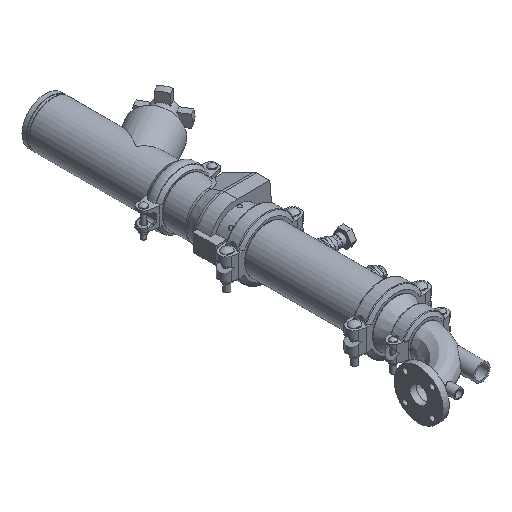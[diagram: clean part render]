
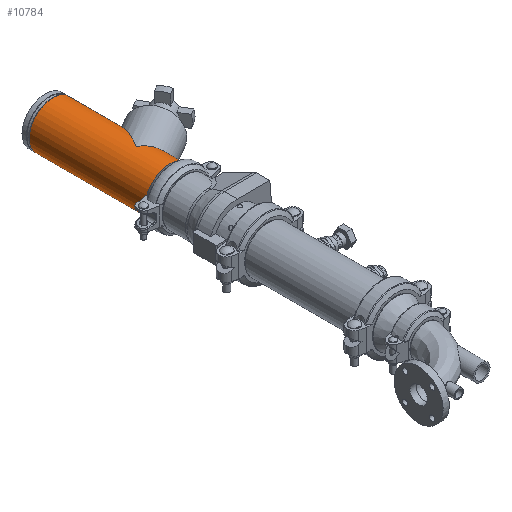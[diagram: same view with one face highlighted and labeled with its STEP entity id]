
A CAD part, isometric view. The second image highlights one B-rep face of the part: STEP entity #10784.
In plain terms, the highlighted cylindrical face has radius 84.138 mm (diameter 168.275 mm), a full revolution.
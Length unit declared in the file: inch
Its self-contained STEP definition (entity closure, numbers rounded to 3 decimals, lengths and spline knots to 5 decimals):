
#273=ELLIPSE('',#11860,6.625,3.3125);
#274=ELLIPSE('',#11861,3.82495,3.3125);
#275=ELLIPSE('',#11864,3.82495,3.3125);
#276=ELLIPSE('',#11865,6.625,3.3125);
#686=LINE('',#17877,#1479);
#687=LINE('',#17883,#1480);
#1479=VECTOR('',#13944,3.3125);
#1480=VECTOR('',#13949,3.3125);
#2003=CYLINDRICAL_SURFACE('',#11857,3.3125);
#2469=FACE_OUTER_BOUND('',#3087,.T.);
#3087=EDGE_LOOP('',(#7877,#7878,#7879,#7880,#7881,#7882,#7883,#7884,#7885,
#7886,#7887,#7888));
#3699=CIRCLE('',#11858,3.3125);
#3700=CIRCLE('',#11859,3.3125);
#3701=CIRCLE('',#11862,3.3125);
#3702=CIRCLE('',#11863,3.3125);
#4477=VERTEX_POINT('',#17872);
#4478=VERTEX_POINT('',#17873);
#4479=VERTEX_POINT('',#17876);
#4480=VERTEX_POINT('',#17878);
#4481=VERTEX_POINT('',#17880);
#4482=VERTEX_POINT('',#17882);
#4483=VERTEX_POINT('',#17884);
#4484=VERTEX_POINT('',#17887);
#5719=EDGE_CURVE('',#4477,#4478,#3699,.T.);
#5720=EDGE_CURVE('',#4478,#4477,#3700,.T.);
#5721=EDGE_CURVE('',#4478,#4479,#686,.T.);
#5722=EDGE_CURVE('',#4479,#4480,#273,.T.);
#5723=EDGE_CURVE('',#4480,#4481,#274,.T.);
#5724=EDGE_CURVE('',#4481,#4482,#687,.T.);
#5725=EDGE_CURVE('',#4482,#4483,#3701,.T.);
#5726=EDGE_CURVE('',#4483,#4482,#3702,.T.);
#5727=EDGE_CURVE('',#4481,#4484,#275,.T.);
#5728=EDGE_CURVE('',#4484,#4479,#276,.T.);
#7877=ORIENTED_EDGE('',*,*,#5719,.F.);
#7878=ORIENTED_EDGE('',*,*,#5720,.F.);
#7879=ORIENTED_EDGE('',*,*,#5721,.T.);
#7880=ORIENTED_EDGE('',*,*,#5722,.T.);
#7881=ORIENTED_EDGE('',*,*,#5723,.T.);
#7882=ORIENTED_EDGE('',*,*,#5724,.T.);
#7883=ORIENTED_EDGE('',*,*,#5725,.T.);
#7884=ORIENTED_EDGE('',*,*,#5726,.T.);
#7885=ORIENTED_EDGE('',*,*,#5724,.F.);
#7886=ORIENTED_EDGE('',*,*,#5727,.T.);
#7887=ORIENTED_EDGE('',*,*,#5728,.T.);
#7888=ORIENTED_EDGE('',*,*,#5721,.F.);
#10784=ADVANCED_FACE('',(#2469),#2003,.T.);
#11857=AXIS2_PLACEMENT_3D('',#17871,#13938,#13939);
#11858=AXIS2_PLACEMENT_3D('',#17874,#13940,#13941);
#11859=AXIS2_PLACEMENT_3D('',#17875,#13942,#13943);
#11860=AXIS2_PLACEMENT_3D('',#17879,#13945,#13946);
#11861=AXIS2_PLACEMENT_3D('',#17881,#13947,#13948);
#11862=AXIS2_PLACEMENT_3D('',#17885,#13950,#13951);
#11863=AXIS2_PLACEMENT_3D('',#17886,#13952,#13953);
#11864=AXIS2_PLACEMENT_3D('',#17888,#13954,#13955);
#11865=AXIS2_PLACEMENT_3D('',#17889,#13956,#13957);
#13938=DIRECTION('center_axis',(1.,0.,0.));
#13939=DIRECTION('ref_axis',(0.,1.,0.));
#13940=DIRECTION('center_axis',(1.,0.,0.));
#13941=DIRECTION('ref_axis',(0.,0.,-1.));
#13942=DIRECTION('center_axis',(1.,0.,0.));
#13943=DIRECTION('ref_axis',(0.,0.,-1.));
#13944=DIRECTION('',(-1.,0.,0.));
#13945=DIRECTION('center_axis',(0.5,0.866,0.));
#13946=DIRECTION('ref_axis',(-0.866,0.5,0.));
#13947=DIRECTION('center_axis',(-0.866,0.5,0.));
#13948=DIRECTION('ref_axis',(-0.5,-0.866,0.));
#13949=DIRECTION('',(-1.,0.,0.));
#13950=DIRECTION('center_axis',(1.,0.,0.));
#13951=DIRECTION('ref_axis',(0.,0.,-1.));
#13952=DIRECTION('center_axis',(1.,0.,0.));
#13953=DIRECTION('ref_axis',(0.,0.,-1.));
#13954=DIRECTION('center_axis',(-0.866,0.5,0.));
#13955=DIRECTION('ref_axis',(-0.5,-0.866,0.));
#13956=DIRECTION('center_axis',(0.5,0.866,0.));
#13957=DIRECTION('ref_axis',(-0.866,0.5,0.));
#17871=CARTESIAN_POINT('Origin',(0.,0.,
0.));
#17872=CARTESIAN_POINT('',(8.44,3.3125,0.));
#17873=CARTESIAN_POINT('',(8.44,-3.3125,0.));
#17874=CARTESIAN_POINT('Origin',(8.44,0.,0.));
#17875=CARTESIAN_POINT('Origin',(8.44,0.,0.));
#17876=CARTESIAN_POINT('',(2.15155,-3.3125,0.));
#17877=CARTESIAN_POINT('',(0.,-3.3125,0.));
#17878=CARTESIAN_POINT('',(-3.58586,0.,-3.3125));
#17879=CARTESIAN_POINT('Origin',(-3.58586,0.,
0.));
#17880=CARTESIAN_POINT('',(-5.49834,-3.3125,0.));
#17881=CARTESIAN_POINT('Origin',(-3.58586,0.,
0.));
#17882=CARTESIAN_POINT('',(-8.44,-3.3125,0.));
#17883=CARTESIAN_POINT('',(0.,-3.3125,0.));
#17884=CARTESIAN_POINT('',(-8.44,3.3125,0.));
#17885=CARTESIAN_POINT('Origin',(-8.44,0.,0.));
#17886=CARTESIAN_POINT('Origin',(-8.44,0.,0.));
#17887=CARTESIAN_POINT('',(-3.58586,0.,3.3125));
#17888=CARTESIAN_POINT('Origin',(-3.58586,0.,
0.));
#17889=CARTESIAN_POINT('Origin',(-3.58586,0.,
0.));
